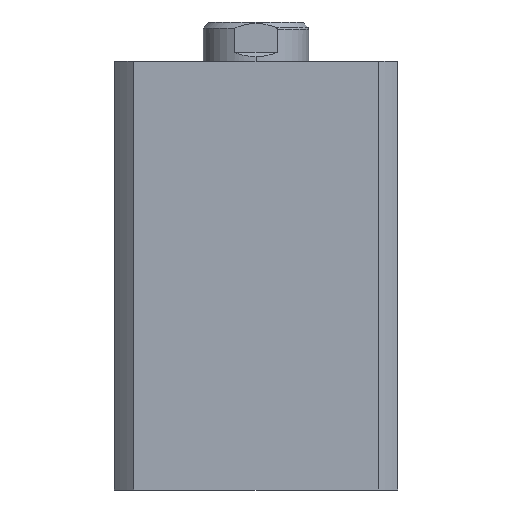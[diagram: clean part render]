
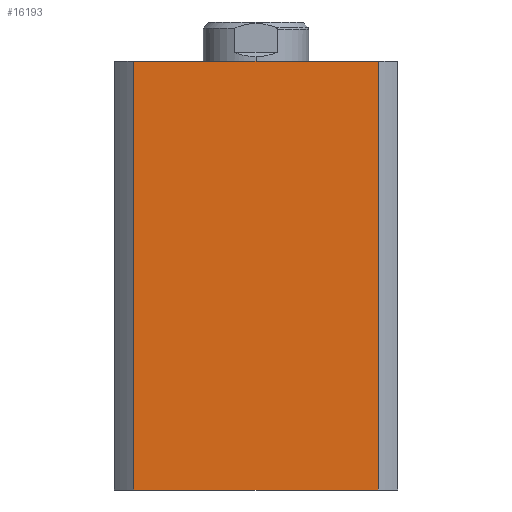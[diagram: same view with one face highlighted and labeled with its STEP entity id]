
A CAD part, left-side view. The second image highlights one B-rep face of the part: STEP entity #16193.
In plain terms, the highlighted planar face has unit normal (-1, 0, 0).
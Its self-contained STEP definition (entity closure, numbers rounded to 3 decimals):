
#35 = LINE ( 'NONE', #6022, #6886 ) ;
#147 = EDGE_CURVE ( 'NONE', #723, #7463, #35, .T. ) ;
#723 = VERTEX_POINT ( 'NONE', #13928 ) ;
#787 = CARTESIAN_POINT ( 'NONE',  ( -47., -40.435, 0. ) ) ;
#1040 = LINE ( 'NONE', #9502, #11067 ) ;
#1325 = ORIENTED_EDGE ( 'NONE', *, *, #147, .F. ) ;
#1443 = DIRECTION ( 'NONE',  ( 0., -1., 0. ) ) ;
#2431 = ORIENTED_EDGE ( 'NONE', *, *, #12367, .T. ) ;
#2708 = VERTEX_POINT ( 'NONE', #787 ) ;
#3291 = VERTEX_POINT ( 'NONE', #7683 ) ;
#3332 = DIRECTION ( 'NONE',  ( 0., -1., 0. ) ) ;
#3918 = LINE ( 'NONE', #13757, #7116 ) ;
#4764 = CARTESIAN_POINT ( 'NONE',  ( -47., 47., 142. ) ) ;
#6022 = CARTESIAN_POINT ( 'NONE',  ( -47., 47., 142. ) ) ;
#6136 = DIRECTION ( 'NONE',  ( 1., 0., 0. ) ) ;
#6823 = DIRECTION ( 'NONE',  ( 0., 0., -1. ) ) ;
#6886 = VECTOR ( 'NONE', #3332, 1000. ) ;
#7116 = VECTOR ( 'NONE', #1443, 1000. ) ;
#7463 = VERTEX_POINT ( 'NONE', #10695 ) ;
#7683 = CARTESIAN_POINT ( 'NONE',  ( -47., 40.435, 0. ) ) ;
#8998 = CARTESIAN_POINT ( 'NONE',  ( -47., 40.435, -158. ) ) ;
#9146 = FACE_OUTER_BOUND ( 'NONE', #15466, .T. ) ;
#9502 = CARTESIAN_POINT ( 'NONE',  ( -47., -40.435, -158. ) ) ;
#10194 = ORIENTED_EDGE ( 'NONE', *, *, #14797, .F. ) ;
#10695 = CARTESIAN_POINT ( 'NONE',  ( -47., -40.435, 142. ) ) ;
#11067 = VECTOR ( 'NONE', #6823, 1000. ) ;
#12154 = VECTOR ( 'NONE', #15816, 1000. ) ;
#12367 = EDGE_CURVE ( 'NONE', #3291, #2708, #3918, .T. ) ;
#12936 = PLANE ( 'NONE',  #17337 ) ;
#13560 = EDGE_CURVE ( 'NONE', #3291, #723, #15789, .T. ) ;
#13757 = CARTESIAN_POINT ( 'NONE',  ( -47., 47., 0. ) ) ;
#13928 = CARTESIAN_POINT ( 'NONE',  ( -47., 40.435, 142. ) ) ;
#14797 = EDGE_CURVE ( 'NONE', #7463, #2708, #1040, .T. ) ;
#15466 = EDGE_LOOP ( 'NONE', ( #16491, #2431, #10194, #1325 ) ) ;
#15678 = DIRECTION ( 'NONE',  ( 0., 1., 0. ) ) ;
#15789 = LINE ( 'NONE', #8998, #12154 ) ;
#15816 = DIRECTION ( 'NONE',  ( 0., 0., 1. ) ) ;
#16193 = ADVANCED_FACE ( 'NONE', ( #9146 ), #12936, .F. ) ;
#16491 = ORIENTED_EDGE ( 'NONE', *, *, #13560, .F. ) ;
#17337 = AXIS2_PLACEMENT_3D ( 'NONE', #4764, #6136, #15678 ) ;
